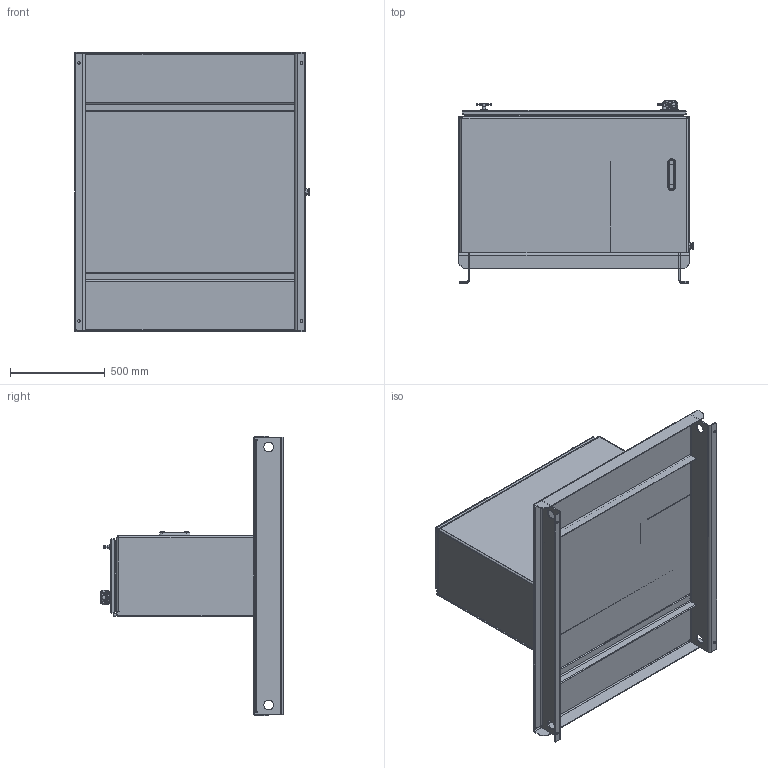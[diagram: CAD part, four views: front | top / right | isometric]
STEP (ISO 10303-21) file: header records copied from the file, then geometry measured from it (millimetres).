
FILE_DESCRIPTION (( 'STEP AP203' ), '1' );
FILE_NAME ('RTP060-HT.STEP', '2015-01-07T19:17:48', ( '' ), ( '' ), 'SwSTEP 2.0', 'SolidWorks 2014', '' );
FILE_SCHEMA (( 'CONFIG_CONTROL_DESIGN' ));
Products named in the file (1): RTP060-HT
Bounding box: 1238.25 x 961.39 x 1473.2 mm (x, y, z)
Volume: 28274838.9 mm3; surface area: 12594432.4 mm2
Topology: 42 solids, 220 shells, 2873 faces, 6352 edges, 3897 vertices
Faces by surface type: plane 1264, cylinder 1024, torus 299, bspline 144, cone 92, sphere 50
Entity records: 87797 total; most frequent: CARTESIAN_POINT 24074, DIRECTION 13908, ORIENTED_EDGE 12608, EDGE_CURVE 6304, AXIS2_PLACEMENT_3D 5343, VERTEX_POINT 3885, LINE 3222, VECTOR 3222
